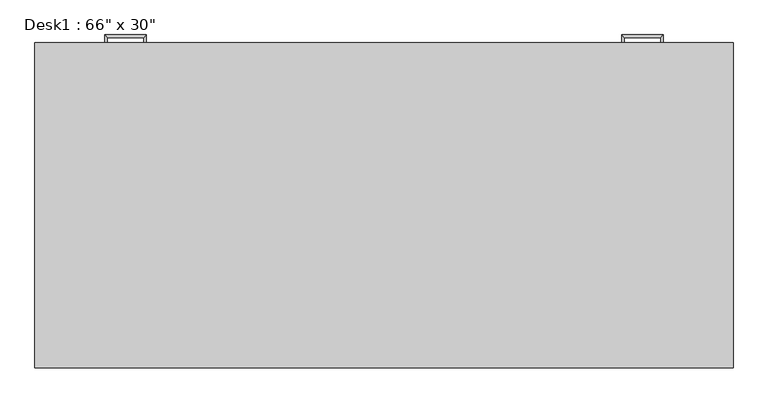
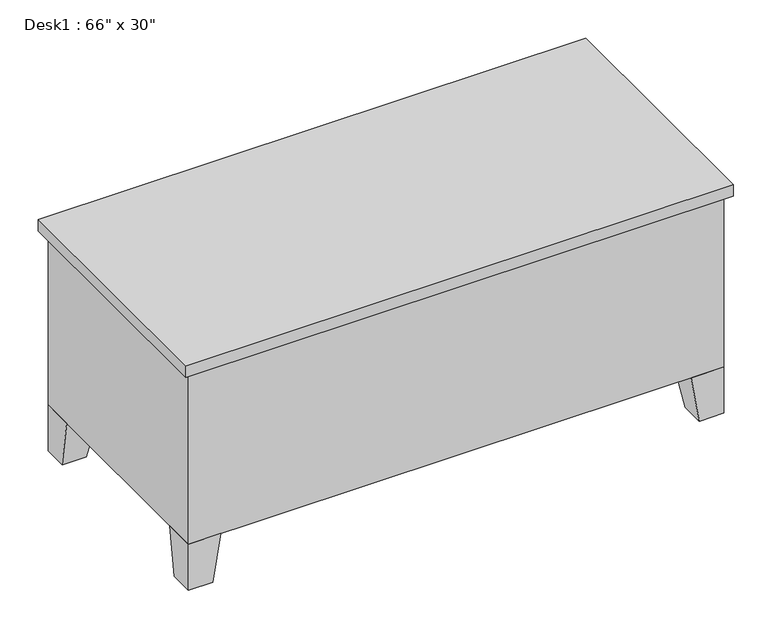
"""IFC4 building model written with IfcOpenShell, lengths in millimetres: furniture geometry."""

from ifc_helpers import new_model, si_unit, frame, origin, place, context, project, spatial, polyline, outline, extrude, faceted_brep, source, transform, mapped, element, save


def furniture_bcdaa455(model_context):
    return source(origin(), model_context, "Body", "SolidModel", [
        extrude(outline(polyline([(1657.35, 762.0), (1289.05, 762.0), (1289.05, 774.7), (1657.35, 774.7), (1657.35, 762.0)])), frame((0.0, 0.0, 603.25), z_axis=(0.0, 0.0, 1.0), x_axis=(1.0, 0.0, 0.0)), (0.0, 0.0, 1.0), 101.6),
        extrude(outline(polyline([(1657.35, 762.0), (1289.05, 762.0), (1289.05, 774.7), (1657.35, 774.7), (1657.35, 762.0)])), frame((0.0, 0.0, 171.45), z_axis=(0.0, 0.0, 1.0), x_axis=(1.0, 0.0, 0.0)), (0.0, 0.0, 1.0), 412.75),
        extrude(outline(polyline([(387.35, 762.0), (19.05, 762.0), (19.05, 774.7), (387.35, 774.7), (387.35, 762.0)])), frame((0.0, 0.0, 603.25), z_axis=(0.0, 0.0, 1.0), x_axis=(1.0, 0.0, 0.0)), (0.0, 0.0, 1.0), 101.6),
        extrude(outline(polyline([(387.35, 762.0), (19.05, 762.0), (19.05, 774.7), (387.35, 774.7), (387.35, 762.0)])), frame((0.0, 0.0, 171.45), z_axis=(0.0, 0.0, 1.0), x_axis=(1.0, 0.0, 0.0)), (0.0, 0.0, 1.0), 171.45),
        extrude(outline(polyline([(387.35, 762.0), (19.05, 762.0), (19.05, 774.7), (387.35, 774.7), (387.35, 762.0)])), frame((0.0, 0.0, 482.6), z_axis=(0.0, 0.0, 1.0), x_axis=(1.0, 0.0, 0.0)), (0.0, 0.0, 1.0), 101.6),
        extrude(outline(polyline([(387.35, 762.0), (19.05, 762.0), (19.05, 774.7), (387.35, 774.7), (387.35, 762.0)])), frame((0.0, 0.0, 361.95), z_axis=(0.0, 0.0, 1.0), x_axis=(1.0, 0.0, 0.0)), (0.0, 0.0, 1.0), 101.6),
        faceted_brep([(1574.8, 762.0, 152.4), (1574.8, 660.4, 152.4), (1676.4, 660.4, 152.4), (1676.4, 762.0, 152.4), (1600.2, 762.0, 0.0), (1676.4, 762.0, 0.0), (1676.4, 685.8, 0.0), (1600.2, 685.8, 0.0)], [[[0, 1, 2, 3]], [[4, 5, 6, 7]], [[4, 7, 1, 0]], [[7, 6, 2, 1]], [[6, 5, 3, 2]], [[5, 4, 0, 3]]]),
        faceted_brep([(1574.8, 0.0, 152.4), (1676.4, 0.0, 152.4), (1676.4, 101.6, 152.4), (1574.8, 101.6, 152.4), (1600.2, 0.0, 0.0), (1600.2, 76.2, 0.0), (1676.4, 76.2, 0.0), (1676.4, 0.0, 0.0)], [[[0, 1, 2, 3]], [[4, 5, 6, 7]], [[4, 7, 1, 0]], [[7, 6, 2, 1]], [[6, 5, 3, 2]], [[5, 4, 0, 3]]]),
        faceted_brep([(101.6, 0.0, 152.4), (101.6, 101.6, 152.4), (0.0, 101.6, 152.4), (0.0, 0.0, 152.4), (76.2, 0.0, 0.0), (0.0, 0.0, 0.0), (0.0, 76.2, 0.0), (76.2, 76.2, 0.0)], [[[0, 1, 2, 3]], [[4, 5, 6, 7]], [[4, 7, 1, 0]], [[7, 6, 2, 1]], [[6, 5, 3, 2]], [[5, 4, 0, 3]]]),
        faceted_brep([(101.6, 762.0, 152.4), (0.0, 762.0, 152.4), (0.0, 660.4, 152.4), (101.6, 660.4, 152.4), (76.2, 762.0, 0.0), (76.2, 685.8, 0.0), (0.0, 685.8, 0.0), (0.0, 762.0, 0.0)], [[[0, 1, 2, 3]], [[4, 5, 6, 7]], [[4, 7, 1, 0]], [[7, 6, 2, 1]], [[6, 5, 3, 2]], [[5, 4, 0, 3]]]),
        extrude(outline(polyline([(1695.45, 781.05), (1695.45, -19.05), (-19.05, -19.05), (-19.05, 781.05), (1695.45, 781.05)])), frame((0.0, 0.0, 723.9), z_axis=(0.0, 0.0, 1.0), x_axis=(1.0, 0.0, 0.0)), (0.0, 0.0, 1.0), 38.1),
        extrude(outline(polyline([(406.4, 762.0), (406.4, 50.8), (1270.0, 50.8), (1270.0, 762.0), (1676.4, 762.0), (1676.4, 0.0), (0.0, 0.0), (0.0, 762.0), (406.4, 762.0)])), frame((0.0, 0.0, 152.4), z_axis=(0.0, 0.0, 1.0), x_axis=(1.0, 0.0, 0.0)), (0.0, 0.0, 1.0), 571.5),
        faceted_brep([(1517.65, 774.7, 546.1), (1517.65, 774.7, 533.4), (1524.0, 774.7, 533.4), (1524.0, 774.7, 546.1), (1517.65, 793.75, 546.1), (1517.65, 793.75, 533.4), (1524.0, 800.1, 533.4), (1524.0, 800.1, 546.1), (1428.75, 793.75, 546.1), (1428.75, 793.75, 533.4), (1422.4, 800.1, 533.4), (1422.4, 800.1, 546.1), (1428.75, 774.7, 546.1), (1422.4, 774.7, 546.1), (1422.4, 774.7, 533.4), (1428.75, 774.7, 533.4)], [[[0, 1, 2, 3]], [[1, 0, 4, 5]], [[2, 1, 5, 6]], [[3, 2, 6, 7]], [[0, 3, 7, 4]], [[5, 4, 8, 9]], [[6, 5, 9, 10]], [[7, 6, 10, 11]], [[4, 7, 11, 8]], [[12, 13, 14, 15]], [[9, 8, 12, 15]], [[10, 9, 15, 14]], [[11, 10, 14, 13]], [[8, 11, 13, 12]]]),
        faceted_brep([(1517.65, 774.7, 666.75), (1517.65, 774.7, 654.05), (1524.0, 774.7, 654.05), (1524.0, 774.7, 666.75), (1517.65, 793.75, 666.75), (1517.65, 793.75, 654.05), (1524.0, 800.1, 654.05), (1524.0, 800.1, 666.75), (1428.75, 793.75, 666.75), (1428.75, 793.75, 654.05), (1422.4, 800.1, 654.05), (1422.4, 800.1, 666.75), (1428.75, 774.7, 666.75), (1422.4, 774.7, 666.75), (1422.4, 774.7, 654.05), (1428.75, 774.7, 654.05)], [[[0, 1, 2, 3]], [[1, 0, 4, 5]], [[2, 1, 5, 6]], [[3, 2, 6, 7]], [[0, 3, 7, 4]], [[5, 4, 8, 9]], [[6, 5, 9, 10]], [[7, 6, 10, 11]], [[4, 7, 11, 8]], [[12, 13, 14, 15]], [[9, 8, 12, 15]], [[10, 9, 15, 14]], [[11, 10, 14, 13]], [[8, 11, 13, 12]]]),
        faceted_brep([(158.75, 774.7, 304.8), (152.4, 774.7, 304.8), (152.4, 774.7, 292.1), (158.75, 774.7, 292.1), (158.75, 793.75, 304.8), (152.4, 800.1, 304.8), (152.4, 800.1, 292.1), (158.75, 793.75, 292.1), (247.65, 793.75, 304.8), (254.0, 800.1, 304.8), (254.0, 800.1, 292.1), (247.65, 793.75, 292.1), (247.65, 774.7, 304.8), (247.65, 774.7, 292.1), (254.0, 774.7, 292.1), (254.0, 774.7, 304.8)], [[[0, 1, 2, 3]], [[1, 0, 4, 5]], [[2, 1, 5, 6]], [[3, 2, 6, 7]], [[0, 3, 7, 4]], [[5, 4, 8, 9]], [[6, 5, 9, 10]], [[7, 6, 10, 11]], [[4, 7, 11, 8]], [[12, 13, 14, 15]], [[9, 8, 12, 15]], [[10, 9, 15, 14]], [[11, 10, 14, 13]], [[8, 11, 13, 12]]]),
        faceted_brep([(158.75, 774.7, 425.45), (152.4, 774.7, 425.45), (152.4, 774.7, 412.75), (158.75, 774.7, 412.75), (158.75, 793.75, 425.45), (152.4, 800.1, 425.45), (152.4, 800.1, 412.75), (158.75, 793.75, 412.75), (247.65, 793.75, 425.45), (254.0, 800.1, 425.45), (254.0, 800.1, 412.75), (247.65, 793.75, 412.75), (247.65, 774.7, 425.45), (247.65, 774.7, 412.75), (254.0, 774.7, 412.75), (254.0, 774.7, 425.45)], [[[0, 1, 2, 3]], [[1, 0, 4, 5]], [[2, 1, 5, 6]], [[3, 2, 6, 7]], [[0, 3, 7, 4]], [[5, 4, 8, 9]], [[6, 5, 9, 10]], [[7, 6, 10, 11]], [[4, 7, 11, 8]], [[12, 13, 14, 15]], [[9, 8, 12, 15]], [[10, 9, 15, 14]], [[11, 10, 14, 13]], [[8, 11, 13, 12]]]),
        faceted_brep([(158.75, 774.7, 546.1), (152.4, 774.7, 546.1), (152.4, 774.7, 533.4), (158.75, 774.7, 533.4), (158.75, 793.75, 546.1), (152.4, 800.1, 546.1), (152.4, 800.1, 533.4), (158.75, 793.75, 533.4), (247.65, 793.75, 546.1), (254.0, 800.1, 546.1), (254.0, 800.1, 533.4), (247.65, 793.75, 533.4), (247.65, 774.7, 546.1), (247.65, 774.7, 533.4), (254.0, 774.7, 533.4), (254.0, 774.7, 546.1)], [[[0, 1, 2, 3]], [[1, 0, 4, 5]], [[2, 1, 5, 6]], [[3, 2, 6, 7]], [[0, 3, 7, 4]], [[5, 4, 8, 9]], [[6, 5, 9, 10]], [[7, 6, 10, 11]], [[4, 7, 11, 8]], [[12, 13, 14, 15]], [[9, 8, 12, 15]], [[10, 9, 15, 14]], [[11, 10, 14, 13]], [[8, 11, 13, 12]]]),
        faceted_brep([(158.75, 774.7, 666.75), (152.4, 774.7, 666.75), (152.4, 774.7, 654.05), (158.75, 774.7, 654.05), (158.75, 793.75, 666.75), (152.4, 800.1, 666.75), (152.4, 800.1, 654.05), (158.75, 793.75, 654.05), (247.65, 793.75, 666.75), (254.0, 800.1, 666.75), (254.0, 800.1, 654.05), (247.65, 793.75, 654.05), (247.65, 774.7, 666.75), (247.65, 774.7, 654.05), (254.0, 774.7, 654.05), (254.0, 774.7, 666.75)], [[[0, 1, 2, 3]], [[1, 0, 4, 5]], [[2, 1, 5, 6]], [[3, 2, 6, 7]], [[0, 3, 7, 4]], [[5, 4, 8, 9]], [[6, 5, 9, 10]], [[7, 6, 10, 11]], [[4, 7, 11, 8]], [[12, 13, 14, 15]], [[9, 8, 12, 15]], [[10, 9, 15, 14]], [[11, 10, 14, 13]], [[8, 11, 13, 12]]]),
    ])


if __name__ == "__main__":
    model = new_model("IFC4")
    model_context = context("Model", 3, world=origin())
    ifc_project = project(units=[si_unit("LENGTHUNIT", "METRE", prefix="MILLI")], contexts=[model_context])
    site = spatial("IfcSite", under=ifc_project)
    building = spatial("IfcBuilding", under=site)
    placement = place(None, origin())
    furniture_shape = furniture_bcdaa455(model_context)
    element("IfcFurniture", 1, ObjectType="Desk1 : 66\" x 30\"", at=placement, inside=building, context=model_context, shape_type="MappedRepresentation", body=[
        mapped(furniture_shape, transform((0.0, 0.0, 0.0), x_axis=(1.0, 0.0, 0.0), y_axis=(0.0, 1.0, 0.0), z_axis=(0.0, 0.0, 1.0))),
    ])
    save(model, "model.ifc")
